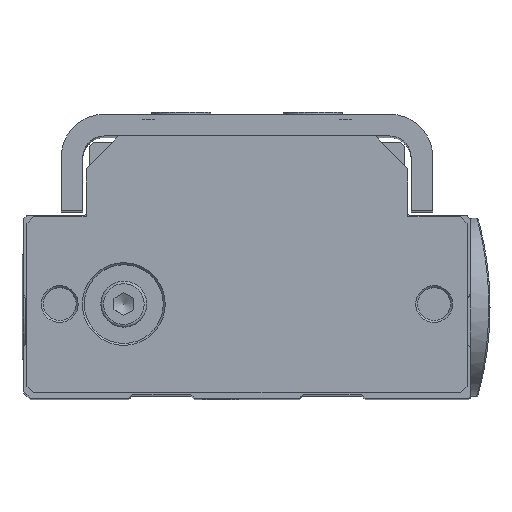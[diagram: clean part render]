
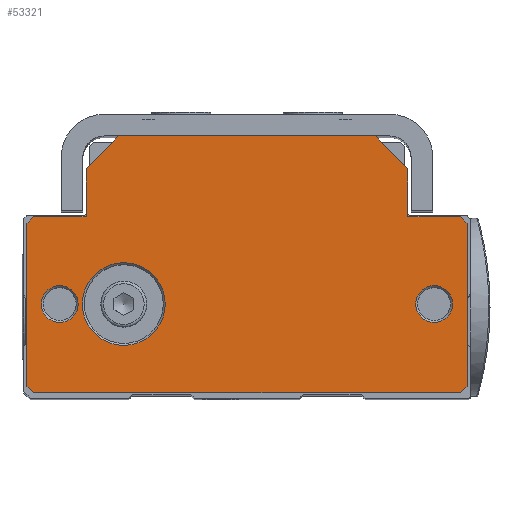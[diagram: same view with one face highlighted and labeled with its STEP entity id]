
A CAD part, top view. The second image highlights one B-rep face of the part: STEP entity #53321.
In plain terms, the highlighted planar face has unit normal (0, 0, 1).
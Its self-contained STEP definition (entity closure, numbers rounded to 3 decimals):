
#4832=FACE_BOUND('',#13301,.T.);
#4833=FACE_BOUND('',#13302,.T.);
#4834=FACE_BOUND('',#13303,.T.);
#7346=CIRCLE('',#58995,2.8);
#7347=CIRCLE('',#58996,2.8);
#7348=CIRCLE('',#58997,2.8);
#7349=CIRCLE('',#58998,2.8);
#7350=CIRCLE('',#58999,6.3);
#7351=CIRCLE('',#59000,6.3);
#10169=FACE_OUTER_BOUND('',#13300,.T.);
#13300=EDGE_LOOP('',(#48789,#48790,#48791,#48792,#48793,#48794,#48795,#48796,
#48797,#48798,#48799,#48800,#48801,#48802));
#13301=EDGE_LOOP('',(#48803,#48804));
#13302=EDGE_LOOP('',(#48805,#48806));
#13303=EDGE_LOOP('',(#48807,#48808));
#17131=LINE('',#106227,#20978);
#17133=LINE('',#106231,#20980);
#17136=LINE('',#106237,#20983);
#17137=LINE('',#106239,#20984);
#17138=LINE('',#106241,#20985);
#17139=LINE('',#106243,#20986);
#17140=LINE('',#106245,#20987);
#17141=LINE('',#106247,#20988);
#17142=LINE('',#106249,#20989);
#17143=LINE('',#106251,#20990);
#17144=LINE('',#106253,#20991);
#17145=LINE('',#106255,#20992);
#17146=LINE('',#106257,#20993);
#17147=LINE('',#106258,#20994);
#20978=VECTOR('',#73076,10.);
#20980=VECTOR('',#73080,1000.);
#20983=VECTOR('',#73085,1000.);
#20984=VECTOR('',#73086,10.);
#20985=VECTOR('',#73087,1000.);
#20986=VECTOR('',#73088,1000.);
#20987=VECTOR('',#73089,1000.);
#20988=VECTOR('',#73090,1000.);
#20989=VECTOR('',#73091,1000.);
#20990=VECTOR('',#73092,1000.);
#20991=VECTOR('',#73093,1000.);
#20992=VECTOR('',#73094,1000.);
#20993=VECTOR('',#73095,1000.);
#20994=VECTOR('',#73096,1000.);
#26045=VERTEX_POINT('',#106224);
#26046=VERTEX_POINT('',#106226);
#26047=VERTEX_POINT('',#106230);
#26049=VERTEX_POINT('',#106236);
#26050=VERTEX_POINT('',#106238);
#26051=VERTEX_POINT('',#106240);
#26052=VERTEX_POINT('',#106242);
#26053=VERTEX_POINT('',#106244);
#26054=VERTEX_POINT('',#106246);
#26055=VERTEX_POINT('',#106248);
#26056=VERTEX_POINT('',#106250);
#26057=VERTEX_POINT('',#106252);
#26058=VERTEX_POINT('',#106254);
#26059=VERTEX_POINT('',#106256);
#26060=VERTEX_POINT('',#106259);
#26061=VERTEX_POINT('',#106260);
#26062=VERTEX_POINT('',#106263);
#26063=VERTEX_POINT('',#106264);
#26064=VERTEX_POINT('',#106267);
#26065=VERTEX_POINT('',#106268);
#33657=EDGE_CURVE('',#26045,#26046,#17131,.T.);
#33659=EDGE_CURVE('',#26046,#26047,#17133,.T.);
#33662=EDGE_CURVE('',#26045,#26049,#17136,.T.);
#33663=EDGE_CURVE('',#26050,#26049,#17137,.T.);
#33664=EDGE_CURVE('',#26051,#26050,#17138,.T.);
#33665=EDGE_CURVE('',#26052,#26051,#17139,.T.);
#33666=EDGE_CURVE('',#26052,#26053,#17140,.T.);
#33667=EDGE_CURVE('',#26053,#26054,#17141,.T.);
#33668=EDGE_CURVE('',#26054,#26055,#17142,.T.);
#33669=EDGE_CURVE('',#26056,#26055,#17143,.T.);
#33670=EDGE_CURVE('',#26056,#26057,#17144,.T.);
#33671=EDGE_CURVE('',#26057,#26058,#17145,.T.);
#33672=EDGE_CURVE('',#26058,#26059,#17146,.T.);
#33673=EDGE_CURVE('',#26047,#26059,#17147,.T.);
#33674=EDGE_CURVE('',#26060,#26061,#7346,.T.);
#33675=EDGE_CURVE('',#26061,#26060,#7347,.T.);
#33676=EDGE_CURVE('',#26062,#26063,#7348,.T.);
#33677=EDGE_CURVE('',#26063,#26062,#7349,.T.);
#33678=EDGE_CURVE('',#26064,#26065,#7350,.T.);
#33679=EDGE_CURVE('',#26065,#26064,#7351,.T.);
#48789=ORIENTED_EDGE('',*,*,#33657,.F.);
#48790=ORIENTED_EDGE('',*,*,#33662,.T.);
#48791=ORIENTED_EDGE('',*,*,#33663,.F.);
#48792=ORIENTED_EDGE('',*,*,#33664,.F.);
#48793=ORIENTED_EDGE('',*,*,#33665,.F.);
#48794=ORIENTED_EDGE('',*,*,#33666,.T.);
#48795=ORIENTED_EDGE('',*,*,#33667,.T.);
#48796=ORIENTED_EDGE('',*,*,#33668,.T.);
#48797=ORIENTED_EDGE('',*,*,#33669,.F.);
#48798=ORIENTED_EDGE('',*,*,#33670,.T.);
#48799=ORIENTED_EDGE('',*,*,#33671,.T.);
#48800=ORIENTED_EDGE('',*,*,#33672,.T.);
#48801=ORIENTED_EDGE('',*,*,#33673,.F.);
#48802=ORIENTED_EDGE('',*,*,#33659,.F.);
#48803=ORIENTED_EDGE('',*,*,#33674,.T.);
#48804=ORIENTED_EDGE('',*,*,#33675,.T.);
#48805=ORIENTED_EDGE('',*,*,#33676,.T.);
#48806=ORIENTED_EDGE('',*,*,#33677,.T.);
#48807=ORIENTED_EDGE('',*,*,#33678,.T.);
#48808=ORIENTED_EDGE('',*,*,#33679,.T.);
#50544=PLANE('',#58994);
#53321=ADVANCED_FACE('',(#10169,#4832,#4833,#4834),#50544,.T.);
#58994=AXIS2_PLACEMENT_3D('',#106235,#73083,#73084);
#58995=AXIS2_PLACEMENT_3D('',#106261,#73097,#73098);
#58996=AXIS2_PLACEMENT_3D('',#106262,#73099,#73100);
#58997=AXIS2_PLACEMENT_3D('',#106265,#73101,#73102);
#58998=AXIS2_PLACEMENT_3D('',#106266,#73103,#73104);
#58999=AXIS2_PLACEMENT_3D('',#106269,#73105,#73106);
#59000=AXIS2_PLACEMENT_3D('',#106270,#73107,#73108);
#73076=DIRECTION('',(0.707,-0.707,0.));
#73080=DIRECTION('',(0.,-1.,0.));
#73083=DIRECTION('center_axis',(0.,0.,1.));
#73084=DIRECTION('ref_axis',(1.,0.,0.));
#73085=DIRECTION('',(-1.,0.,0.));
#73086=DIRECTION('',(0.707,0.707,0.));
#73087=DIRECTION('',(0.,1.,0.));
#73088=DIRECTION('',(1.,0.,0.));
#73089=DIRECTION('',(-0.707,-0.707,0.));
#73090=DIRECTION('',(0.,-1.,0.));
#73091=DIRECTION('',(0.707,-0.707,0.));
#73092=DIRECTION('',(-1.,0.,0.));
#73093=DIRECTION('',(0.707,0.707,0.));
#73094=DIRECTION('',(0.,1.,0.));
#73095=DIRECTION('',(-0.707,0.707,0.));
#73096=DIRECTION('',(1.,0.,0.));
#73097=DIRECTION('center_axis',(0.,0.,-1.));
#73098=DIRECTION('ref_axis',(1.,0.,0.));
#73099=DIRECTION('center_axis',(0.,0.,-1.));
#73100=DIRECTION('ref_axis',(1.,0.,0.));
#73101=DIRECTION('center_axis',(0.,0.,-1.));
#73102=DIRECTION('ref_axis',(1.,0.,0.));
#73103=DIRECTION('center_axis',(0.,0.,-1.));
#73104=DIRECTION('ref_axis',(1.,0.,0.));
#73105=DIRECTION('center_axis',(0.,0.,-1.));
#73106=DIRECTION('ref_axis',(1.,0.,0.));
#73107=DIRECTION('center_axis',(0.,0.,-1.));
#73108=DIRECTION('ref_axis',(1.,0.,0.));
#106224=CARTESIAN_POINT('',(19.5,19.575,0.));
#106226=CARTESIAN_POINT('',(24.5,14.575,0.));
#106227=CARTESIAN_POINT('',(20.769,18.306,0.));
#106230=CARTESIAN_POINT('',(24.5,7.275,0.));
#106231=CARTESIAN_POINT('',(24.5,20.025,0.));
#106235=CARTESIAN_POINT('Origin',(0.,0.,0.));
#106236=CARTESIAN_POINT('',(-19.5,19.575,0.));
#106237=CARTESIAN_POINT('',(-33.5,19.575,0.));
#106238=CARTESIAN_POINT('',(-24.5,14.575,0.));
#106239=CARTESIAN_POINT('',(-20.769,18.306,0.));
#106240=CARTESIAN_POINT('',(-24.5,7.275,0.));
#106241=CARTESIAN_POINT('',(-24.5,20.025,0.));
#106242=CARTESIAN_POINT('',(-32.5,7.275,0.));
#106243=CARTESIAN_POINT('',(-33.5,7.275,0.));
#106244=CARTESIAN_POINT('',(-33.5,6.275,0.));
#106245=CARTESIAN_POINT('',(-19.888,19.888,0.));
#106246=CARTESIAN_POINT('',(-33.5,-18.525,0.));
#106247=CARTESIAN_POINT('',(-33.5,20.025,0.));
#106248=CARTESIAN_POINT('',(-32.5,-19.525,0.));
#106249=CARTESIAN_POINT('',(-26.013,-26.012,0.));
#106250=CARTESIAN_POINT('',(32.5,-19.525,0.));
#106251=CARTESIAN_POINT('',(33.5,-19.525,0.));
#106252=CARTESIAN_POINT('',(33.5,-18.525,0.));
#106253=CARTESIAN_POINT('',(26.013,-26.012,0.));
#106254=CARTESIAN_POINT('',(33.5,6.275,0.));
#106255=CARTESIAN_POINT('',(33.5,20.025,0.));
#106256=CARTESIAN_POINT('',(32.5,7.275,0.));
#106257=CARTESIAN_POINT('',(19.888,19.888,0.));
#106258=CARTESIAN_POINT('',(33.5,7.275,0.));
#106259=CARTESIAN_POINT('',(31.3,-6.025,0.));
#106260=CARTESIAN_POINT('',(25.7,-6.025,0.));
#106261=CARTESIAN_POINT('Origin',(28.5,-6.025,0.));
#106262=CARTESIAN_POINT('Origin',(28.5,-6.025,0.));
#106263=CARTESIAN_POINT('',(-25.7,-6.025,0.));
#106264=CARTESIAN_POINT('',(-31.3,-6.025,0.));
#106265=CARTESIAN_POINT('Origin',(-28.5,-6.025,0.));
#106266=CARTESIAN_POINT('Origin',(-28.5,-6.025,0.));
#106267=CARTESIAN_POINT('',(-12.45,-6.025,0.));
#106268=CARTESIAN_POINT('',(-25.05,-6.025,0.));
#106269=CARTESIAN_POINT('Origin',(-18.75,-6.025,0.));
#106270=CARTESIAN_POINT('Origin',(-18.75,-6.025,0.));
